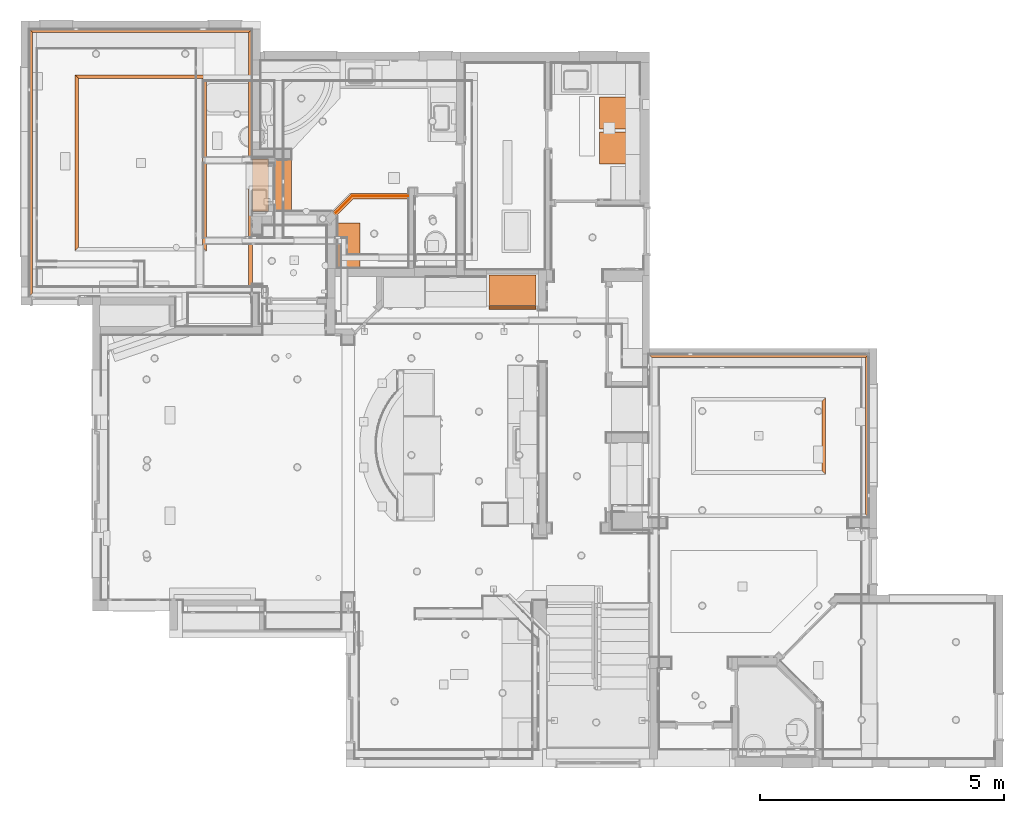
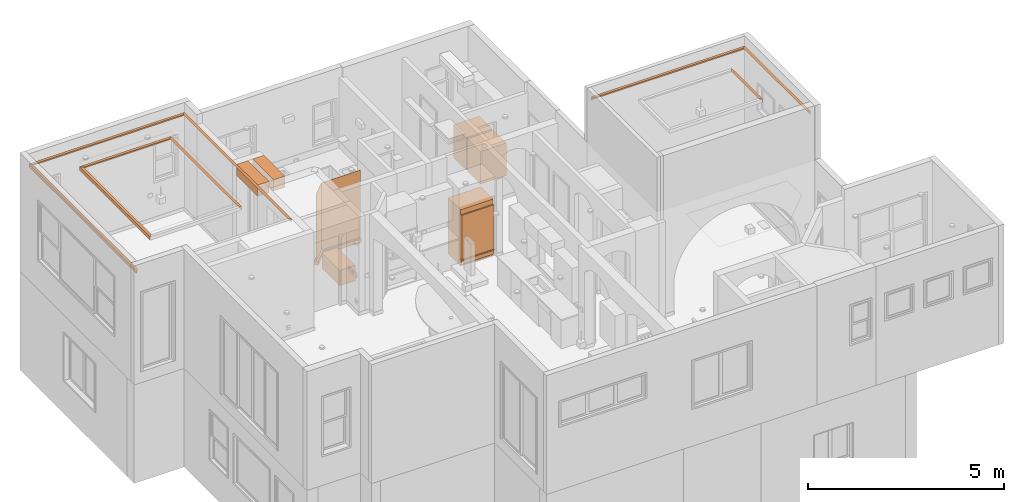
# One storey, part 51 of 60: 17 proxies.
"""IFC2X3 building model written with IfcOpenShell, lengths in feet."""

from ifc_helpers import new_model, entity, si_unit, converted_unit, direction, frame, frame_2d, origin, origin_2d_with_axis, place, context, subcontext, project, spatial, polyline, rectangle, outline, extrude, faceted_brep, source, transform, mapped, material, material_list, type_object, type_shapes, element, save


model = new_model("IFC2X3")

# Units and contexts
model_context = context("Model", 3, precision=0.0001, world=origin(), true_north=direction((6.123031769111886e-17, 1.0)))
plan_context = context("Plan", 3, precision=0.0001, world=origin(), true_north=direction((6.123031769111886e-17, 1.0)))
body_context = subcontext(model_context, "Body", "Model", "MODEL_VIEW")
ifc_project = project(units=[converted_unit("LENGTHUNIT", "FOOT", entity("IfcLengthMeasure", 0.3048), si_unit("LENGTHUNIT", "METRE"), dimensions=[1, 0, 0, 0, 0, 0, 0]), converted_unit("AREAUNIT", "SQUARE FOOT", entity("IfcAreaMeasure", 0.09290304), si_unit("AREAUNIT", "SQUARE_METRE"), dimensions=[2, 0, 0, 0, 0, 0, 0]), converted_unit("PLANEANGLEUNIT", "DEGREE", entity("IfcPlaneAngleMeasure", 0.017453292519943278), si_unit("PLANEANGLEUNIT", "RADIAN"), dimensions=[0, 0, 0, 0, 0, 0, 0])], contexts=[model_context, plan_context])

# Site, building, storey
site_placement = place(None, origin())
site = spatial("IfcSite", under=ifc_project, at=site_placement, Name="Default", CompositionType="ELEMENT")
building_placement = place(site_placement, origin())
building = spatial("IfcBuilding", under=site, at=building_placement, CompositionType="ELEMENT")
storey_placement = place(building_placement, origin())
storey = spatial("IfcBuildingStorey", under=building, at=storey_placement, Name="First floor", CompositionType="ELEMENT", Elevation=0.0)

# Proxies
ifc_material_1 = material(Name="Glass")
building_element_proxy_type_1 = type_object("IfcBuildingElementProxyType", Name="Generic Models 4:Generic Models 3", PredefinedType="NOTDEFINED", material=ifc_material_1)
shared_shape_1 = source(origin(), body_context, "Body", "SweptSolid", [
    extrude(outline(polyline([(-0.8515006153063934, 0.3710267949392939), (2.8958387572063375, 0.3710267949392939), (2.895838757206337, 0.4126934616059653), (-0.8687595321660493, 0.41269346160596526), (-2.050440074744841, -0.7689888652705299), (-2.020977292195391, -0.7984516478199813), (-0.8515006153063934, 0.3710267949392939)])), frame((1.2708279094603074, 37.96230653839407, 11.083333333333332)), (0.0, 0.0, 1.0), 6.83333333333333),
])
type_shapes(building_element_proxy_type_1, [shared_shape_1])
proxy_1_placement = place(storey_placement, origin())
element("IfcBuildingElementProxy", 1, at=proxy_1_placement, inside=storey, type_object=building_element_proxy_type_1, material=ifc_material_1, Name="Generic Models 4:Generic Models 3", ObjectType="Generic Models 4:Generic Models 3", context=body_context, shape_type="MappedRepresentation", body=[
    mapped(shared_shape_1, transform((0.0, 0.0, 0.0), scale=1.0)),
])
ifc_material_2 = material(Name="Default New Material")
building_element_proxy_type_2 = type_object("IfcBuildingElementProxyType", Name="Generic Models 24:Generic Models 24", PredefinedType="NOTDEFINED", material=ifc_material_2)
shared_shape_2 = source(origin(), body_context, "Body", "SweptSolid", [
    extrude(outline(polyline([(-2.895838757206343, -0.5793601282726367), (0.9377951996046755, -0.5793601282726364), (2.1682912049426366, 0.6511377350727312), (1.9031261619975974, 0.9163027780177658), (0.7824649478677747, -0.20436012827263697), (-2.8958387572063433, -0.2043601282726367), (-2.895838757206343, -0.5793601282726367)])), frame((1.2708279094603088, 37.96230653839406, 10.666666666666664), z_axis=(0.0, 0.0, 1.0), x_axis=(-1.0, 0.0, 0.0)), (0.0, 0.0, 1.0), 0.41666666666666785),
])
type_shapes(building_element_proxy_type_2, [shared_shape_2])
proxy_2_placement = place(storey_placement, origin())
element("IfcBuildingElementProxy", 2, at=proxy_2_placement, inside=storey, type_object=building_element_proxy_type_2, material=ifc_material_2, Name="Generic Models 24:Generic Models 24", ObjectType="Generic Models 24:Generic Models 24", context=body_context, shape_type="MappedRepresentation", body=[
    mapped(shared_shape_2, transform((0.0, 0.0, 0.0), scale=1.0)),
])
building_element_proxy_type_3 = type_object("IfcBuildingElementProxyType", Name="Generic Models 59:Generic Models 59", PredefinedType="NOTDEFINED", material=ifc_material_2)
shared_shape_3 = source(origin(), body_context, "Body", "SweptSolid", [
    extrude(rectangle(XDim=3.49965483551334, YDim=1.083333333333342, at=origin_2d_with_axis()), frame((-5.770833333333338, 39.083160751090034, 19.5), z_axis=(0.0, 0.0, 1.0), x_axis=(0.0, 1.0, 0.0)), (0.0, 0.0, 1.0), 1.1666666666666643),
])
type_shapes(building_element_proxy_type_3, [shared_shape_3])
proxy_3_placement = place(storey_placement, origin())
element("IfcBuildingElementProxy", 3, at=proxy_3_placement, inside=storey, type_object=building_element_proxy_type_3, material=ifc_material_2, Name="Generic Models 59:Generic Models 59", ObjectType="Generic Models 59:Generic Models 59", context=body_context, shape_type="MappedRepresentation", body=[
    mapped(shared_shape_3, transform((0.0, 0.0, 0.0), scale=1.0)),
])
building_element_proxy_type_4 = type_object("IfcBuildingElementProxyType", Name="Generic Models 60:Generic Models 59", PredefinedType="NOTDEFINED", material=ifc_material_2)
shared_shape_4 = source(origin(), body_context, "Body", "SweptSolid", [
    extrude(rectangle(XDim=3.49965483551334, YDim=1.0833333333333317, at=frame_2d((0.0, -2.220446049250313e-16), x_axis=(1.0, 0.0))), frame((-4.229166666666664, 39.083160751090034, 19.500000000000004), z_axis=(0.0, 0.0, 1.0), x_axis=(0.0, 1.0, 0.0)), (0.0, 0.0, 1.0), 1.1666666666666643),
])
type_shapes(building_element_proxy_type_4, [shared_shape_4])
proxy_4_placement = place(storey_placement, origin())
element("IfcBuildingElementProxy", 4, at=proxy_4_placement, inside=storey, type_object=building_element_proxy_type_4, material=ifc_material_2, Name="Generic Models 60:Generic Models 59", ObjectType="Generic Models 60:Generic Models 59", context=body_context, shape_type="MappedRepresentation", body=[
    mapped(shared_shape_4, transform((0.0, 0.0, 0.0), scale=1.0)),
])
building_element_proxy_type_5 = type_object("IfcBuildingElementProxyType", Name="Specialty Equipment_1:Specialty Equipment_1", PredefinedType="NOTDEFINED", material=ifc_material_2)
shared_shape_5 = source(origin(), body_context, "Body", "SweptSolid", [
    extrude(rectangle(XDim=2.1666666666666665, YDim=2.5, at=origin_2d_with_axis()), frame((0.0, -1.25, 0.0), z_axis=(0.0, 0.0, 1.0), x_axis=(-1.0, 0.0, 0.0)), (0.0, 0.0, 1.0), 3.3333333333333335),
])
type_shapes(building_element_proxy_type_5, [shared_shape_5])
for number, where, z_axis, x_axis, name in (
    (5, (17.0, 43.93715483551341, 10.666666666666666), (0.0, 0.0, 1.0), (0.0, 1.0, 0.0), "Specialty Equipment_1:Specialty Equipment_1"),
    (6, (17.0, 41.582988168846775, 10.666666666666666), (0.0, 0.0, 1.0), (0.0, 1.0, 0.0), "Specialty Equipment_1:Specialty Equipment_1"),
):
    element("IfcBuildingElementProxy", number, at=place(storey_placement, frame(where, z_axis=z_axis, x_axis=x_axis)), inside=storey, type_object=building_element_proxy_type_5, material=ifc_material_2, Name=name, ObjectType="Specialty Equipment_1:Specialty Equipment_1", context=body_context, shape_type="MappedRepresentation", body=[
        mapped(shared_shape_5, transform((0.0, 0.0, 0.0), scale=1.0)),
    ])
ifc_material_3 = material(Name="Metal - Chrome")
ifc_material_list = material_list([ifc_material_2, ifc_material_3])
building_element_proxy_type_6 = type_object("IfcBuildingElementProxyType", Name="C_Refrigerator:30\" x 24\" LH", PredefinedType="NOTDEFINED", material=ifc_material_list)
shared_shape_6 = source(origin(), body_context, "Body", "SweptSolid", [
    extrude(rectangle(XDim=3.166666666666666, YDim=0.12499999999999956, at=frame_2d((0.0, -1.1102230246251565e-16), x_axis=(1.0, 0.0))), frame((0.0, -1.0951874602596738, 0.2500000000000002), z_axis=(0.0, 0.0, 1.0), x_axis=(-1.0, 0.0, 0.0)), (0.0, 0.0, 1.0), 0.4947916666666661),
    extrude(rectangle(XDim=3.166666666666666, YDim=0.12499999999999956, at=frame_2d((0.0, -1.1102230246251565e-16), x_axis=(1.0, 0.0))), frame((0.0, -1.0951874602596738, 0.7552083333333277), z_axis=(0.0, 0.0, 1.0), x_axis=(-1.0, 0.0, 0.0)), (0.0, 0.0, 1.0), 4.494791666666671),
    extrude(rectangle(XDim=3.166666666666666, YDim=2.073242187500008, at=origin_2d_with_axis()), frame((0.0, 0.024766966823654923, 0.0), z_axis=(0.0, 0.0, 1.0), x_axis=(-1.0, 0.0, 0.0)), (0.0, 0.0, 1.0), 5.749999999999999),
    extrude(rectangle(XDim=0.12499999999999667, YDim=0.02083333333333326, at=frame_2d((-1.1102230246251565e-16, 1.1102230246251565e-16), x_axis=(1.0, 0.0))), frame((-1.5729166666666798, -1.2201874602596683, 0.7552083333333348), z_axis=(0.0, 0.0, 1.0), x_axis=(0.0, -1.0, 0.0)), (0.0, 0.0, 1.0), 4.49479166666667),
    extrude(rectangle(XDim=3.166666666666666, YDim=0.12500000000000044, at=frame_2d((0.0, -1.1102230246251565e-16), x_axis=(1.0, 0.0))), frame((0.0, -1.2201874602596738, 0.723958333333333), z_axis=(0.0, 0.0, 1.0), x_axis=(-1.0, 0.0, 0.0)), (0.0, 0.0, 1.0), 0.02083333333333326),
])
type_shapes(building_element_proxy_type_6, [shared_shape_6])
proxy_5_placement = place(storey_placement, frame((11.166666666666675, 32.00648303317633, 10.666666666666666)))
element("IfcBuildingElementProxy", 7, at=proxy_5_placement, inside=storey, type_object=building_element_proxy_type_6, material=ifc_material_list, Name="C_Refrigerator:30\" x 24\" LH", ObjectType="C_Refrigerator:30\" x 24\" LH", context=body_context, shape_type="MappedRepresentation", body=[
    mapped(shared_shape_6, transform((0.0, 0.0, 0.0), scale=1.0)),
])
building_element_proxy_type_7 = type_object("IfcBuildingElementProxyType", Name="Generic Models 68:Generic Models 68", PredefinedType="NOTDEFINED", material=ifc_material_2)
shared_shape_7 = source(origin(), body_context, "Body", "SweptSolid", [
    extrude(rectangle(XDim=3.0, YDim=1.5000000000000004, at=frame_2d((0.0, -2.220446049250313e-16), x_axis=(1.0, 0.0))), frame((0.16666666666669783, 35.04166666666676, 10.666666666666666), z_axis=(0.0, 0.0, 1.0), x_axis=(0.0, -1.0, 0.0)), (0.0, 0.0, 1.0), 1.583333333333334),
])
type_shapes(building_element_proxy_type_7, [shared_shape_7])
proxy_6_placement = place(storey_placement, origin())
element("IfcBuildingElementProxy", 8, at=proxy_6_placement, inside=storey, type_object=building_element_proxy_type_7, material=ifc_material_2, Name="Generic Models 68:Generic Models 68", ObjectType="Generic Models 68:Generic Models 68", context=body_context, shape_type="MappedRepresentation", body=[
    mapped(shared_shape_7, transform((0.0, 0.0, 0.0), scale=1.0)),
])
building_element_proxy_type_8 = type_object("IfcBuildingElementProxyType", Name="C_Ceiling Plinth:C_Ceiling Plinth", PredefinedType="NOTDEFINED", material=ifc_material_2)
shared_shape_8 = source(origin(), body_context, "Body", "Brep", [
    faceted_brep([(5.166666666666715, 0.0, 0.0), (5.166666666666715, 0.0, -0.3333333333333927), (0.0, 0.0, -0.3333333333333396), (0.0, 0.0, 0.0), (4.916666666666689, -0.25000000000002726, 0.0), (0.25000000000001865, -0.25000000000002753, 0.0)], [[[0, 1, 2, 3]], [[4, 0, 3, 5]], [[1, 4, 5, 2]], [[1, 0, 4]], [[3, 2, 5]]]),
])
type_shapes(building_element_proxy_type_8, [shared_shape_8])
proxy_7_placement = place(storey_placement, frame((32.20833333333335, 24.833333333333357, 26.66666666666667), z_axis=(0.0, 0.0, 1.0), x_axis=(0.0, -1.0, 0.0)))
element("IfcBuildingElementProxy", 9, at=proxy_7_placement, inside=storey, type_object=building_element_proxy_type_8, material=ifc_material_2, Name="C_Ceiling Plinth:C_Ceiling Plinth", ObjectType="C_Ceiling Plinth:C_Ceiling Plinth", context=body_context, shape_type="MappedRepresentation", body=[
    mapped(shared_shape_8, transform((0.0, 0.0, 0.0), scale=1.0)),
])
building_element_proxy_type_9 = type_object("IfcBuildingElementProxyType", Name="C_Ceiling Plinth:C_Ceiling Plinth", PredefinedType="NOTDEFINED", material=ifc_material_2)
shared_shape_9 = source(origin(), body_context, "Body", "Brep", [
    faceted_brep([(14.83333333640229, 0.0, 0.0), (14.833333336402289, 0.0, -0.333333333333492), (0.0, 0.0, -0.3333333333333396), (0.0, 0.0, 0.0), (14.583333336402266, -0.25000000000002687, 0.0), (0.25000000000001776, -0.25000000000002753, 0.0)], [[[0, 1, 2, 3]], [[4, 0, 3, 5]], [[1, 4, 5, 2]], [[1, 0, 4]], [[3, 2, 5]]]),
])
type_shapes(building_element_proxy_type_9, [shared_shape_9])
proxy_8_placement = place(storey_placement, frame((20.29166666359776, 27.750000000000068, 26.166666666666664)))
element("IfcBuildingElementProxy", 10, at=proxy_8_placement, inside=storey, type_object=building_element_proxy_type_9, material=ifc_material_2, Name="C_Ceiling Plinth:C_Ceiling Plinth", ObjectType="C_Ceiling Plinth:C_Ceiling Plinth", context=body_context, shape_type="MappedRepresentation", body=[
    mapped(shared_shape_9, transform((0.0, 0.0, 0.0), scale=1.0)),
])
building_element_proxy_type_10 = type_object("IfcBuildingElementProxyType", Name="C_Ceiling Plinth:C_Ceiling Plinth", PredefinedType="NOTDEFINED", material=ifc_material_2)
shared_shape_10 = source(origin(), body_context, "Body", "Brep", [
    faceted_brep([(10.999999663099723, 0.0, 0.0), (10.999999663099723, 0.0, -0.3333333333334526), (0.0, 0.0, -0.3333333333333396), (0.0, 0.0, 0.0), (10.749999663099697, -0.25000000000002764, 0.0), (0.2500000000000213, -0.25000000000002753, 0.0)], [[[0, 1, 2, 3]], [[4, 0, 3, 5]], [[1, 4, 5, 2]], [[1, 0, 4]], [[3, 2, 5]]]),
])
type_shapes(building_element_proxy_type_10, [shared_shape_10])
proxy_9_placement = place(storey_placement, frame((35.12500000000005, 27.750000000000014, 26.166666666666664), z_axis=(0.0, 0.0, 1.0), x_axis=(0.0, -1.0, 0.0)))
element("IfcBuildingElementProxy", 11, at=proxy_9_placement, inside=storey, type_object=building_element_proxy_type_10, material=ifc_material_2, Name="C_Ceiling Plinth:C_Ceiling Plinth", ObjectType="C_Ceiling Plinth:C_Ceiling Plinth", context=body_context, shape_type="MappedRepresentation", body=[
    mapped(shared_shape_10, transform((0.0, 0.0, 0.0), scale=1.0)),
])
building_element_proxy_type_11 = type_object("IfcBuildingElementProxyType", Name="C_Ceiling Plinth:C_Ceiling Plinth", PredefinedType="NOTDEFINED", material=ifc_material_2)
shared_shape_11 = source(origin(), body_context, "Body", "Brep", [
    faceted_brep([(15.0, 0.0, 0.0), (15.0, 0.0, -0.33333333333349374), (0.0, 0.0, -0.3333333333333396), (0.0, 0.0, 0.0), (14.749999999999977, -0.25000000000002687, 0.0), (0.25000000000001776, -0.25000000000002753, 0.0)], [[[0, 1, 2, 3]], [[4, 0, 3, 5]], [[1, 4, 5, 2]], [[1, 0, 4]], [[3, 2, 5]]]),
])
type_shapes(building_element_proxy_type_11, [shared_shape_11])
proxy_10_placement = place(storey_placement, frame((-21.312499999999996, 49.58333333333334, 20.66666666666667)))
element("IfcBuildingElementProxy", 12, at=proxy_10_placement, inside=storey, type_object=building_element_proxy_type_11, material=ifc_material_2, Name="C_Ceiling Plinth:C_Ceiling Plinth", ObjectType="C_Ceiling Plinth:C_Ceiling Plinth", context=body_context, shape_type="MappedRepresentation", body=[
    mapped(shared_shape_11, transform((0.0, 0.0, 0.0), scale=1.0)),
])
building_element_proxy_type_12 = type_object("IfcBuildingElementProxyType", Name="C_Ceiling Plinth:C_Ceiling Plinth", PredefinedType="NOTDEFINED", material=ifc_material_2)
shared_shape_12 = source(origin(), body_context, "Body", "Brep", [
    faceted_brep([(18.0, 0.0, 0.0), (18.0, 0.0, -0.33333333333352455), (0.0, 0.0, -0.3333333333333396), (0.0, 0.0, 0.0), (17.750000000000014, -0.25000000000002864, 0.0), (0.25000000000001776, -0.25000000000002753, 0.0)], [[[0, 1, 2, 3]], [[4, 0, 3, 5]], [[1, 4, 5, 2]], [[1, 0, 4]], [[3, 2, 5]]]),
])
type_shapes(building_element_proxy_type_12, [shared_shape_12])
for number, where, z_axis, x_axis, name in (
    (13, (-21.312500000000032, 31.5833333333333, 20.66666666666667), (0.0, 0.0, 1.0), (0.0, 1.0, 0.0), "C_Ceiling Plinth:C_Ceiling Plinth"),
    (14, (-6.312499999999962, 49.583333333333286, 20.66666666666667), (0.0, 0.0, 1.0), (0.0, -1.0, 0.0), "C_Ceiling Plinth:C_Ceiling Plinth"),
):
    element("IfcBuildingElementProxy", number, at=place(storey_placement, frame(where, z_axis=z_axis, x_axis=x_axis)), inside=storey, type_object=building_element_proxy_type_12, material=ifc_material_2, Name=name, ObjectType="C_Ceiling Plinth:C_Ceiling Plinth", context=body_context, shape_type="MappedRepresentation", body=[
        mapped(shared_shape_12, transform((0.0, 0.0, 0.0), scale=1.0)),
    ])
building_element_proxy_type_13 = type_object("IfcBuildingElementProxyType", Name="C_Ceiling Plinth:C_Ceiling Plinth", PredefinedType="NOTDEFINED", material=ifc_material_2)
shared_shape_13 = source(origin(), body_context, "Body", "Brep", [
    faceted_brep([(8.833333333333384, 0.0, 0.0), (8.833333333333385, 0.0, -0.33333333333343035), (0.0, 0.0, -0.3333333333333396), (0.0, 0.0, 0.0), (8.583333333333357, -0.25000000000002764, 0.0), (0.25000000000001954, -0.25000000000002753, 0.0)], [[[0, 1, 2, 3]], [[4, 0, 3, 5]], [[1, 4, 5, 2]], [[1, 0, 4]], [[3, 2, 5]]]),
])
type_shapes(building_element_proxy_type_13, [shared_shape_13])
proxy_11_placement = place(storey_placement, frame((-18.229166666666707, 46.5, 21.16666666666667)))
element("IfcBuildingElementProxy", 15, at=proxy_11_placement, inside=storey, type_object=building_element_proxy_type_13, material=ifc_material_2, Name="C_Ceiling Plinth:C_Ceiling Plinth", ObjectType="C_Ceiling Plinth:C_Ceiling Plinth", context=body_context, shape_type="MappedRepresentation", body=[
    mapped(shared_shape_13, transform((0.0, 0.0, 0.0), scale=1.0)),
])
building_element_proxy_type_14 = type_object("IfcBuildingElementProxyType", Name="C_Ceiling Plinth:C_Ceiling Plinth", PredefinedType="NOTDEFINED", material=ifc_material_2)
shared_shape_14 = source(origin(), body_context, "Body", "Brep", [
    faceted_brep([(11.833333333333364, 0.0, 0.0), (11.833333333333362, 0.0, -0.3333333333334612), (0.0, 0.0, -0.3333333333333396), (0.0, 0.0, 0.0), (11.583333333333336, -0.2500000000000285, 0.0), (0.25000000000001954, -0.25000000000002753, 0.0)], [[[0, 1, 2, 3]], [[4, 0, 3, 5]], [[1, 4, 5, 2]], [[1, 0, 4]], [[3, 2, 5]]]),
])
type_shapes(building_element_proxy_type_14, [shared_shape_14])
for number, where, z_axis, x_axis, name in (
    (16, (-9.395833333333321, 46.49999999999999, 21.16666666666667), (0.0, 0.0, 1.0), (0.0, -1.0, 0.0), "C_Ceiling Plinth:C_Ceiling Plinth"),
    (17, (-18.229166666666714, 34.666666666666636, 21.16666666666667), (0.0, 0.0, 1.0), (0.0, 1.0, 0.0), "C_Ceiling Plinth:C_Ceiling Plinth"),
):
    element("IfcBuildingElementProxy", number, at=place(storey_placement, frame(where, z_axis=z_axis, x_axis=x_axis)), inside=storey, type_object=building_element_proxy_type_14, material=ifc_material_2, Name=name, ObjectType="C_Ceiling Plinth:C_Ceiling Plinth", context=body_context, shape_type="MappedRepresentation", body=[
        mapped(shared_shape_14, transform((0.0, 0.0, 0.0), scale=1.0)),
    ])

save(model, "model.ifc")
